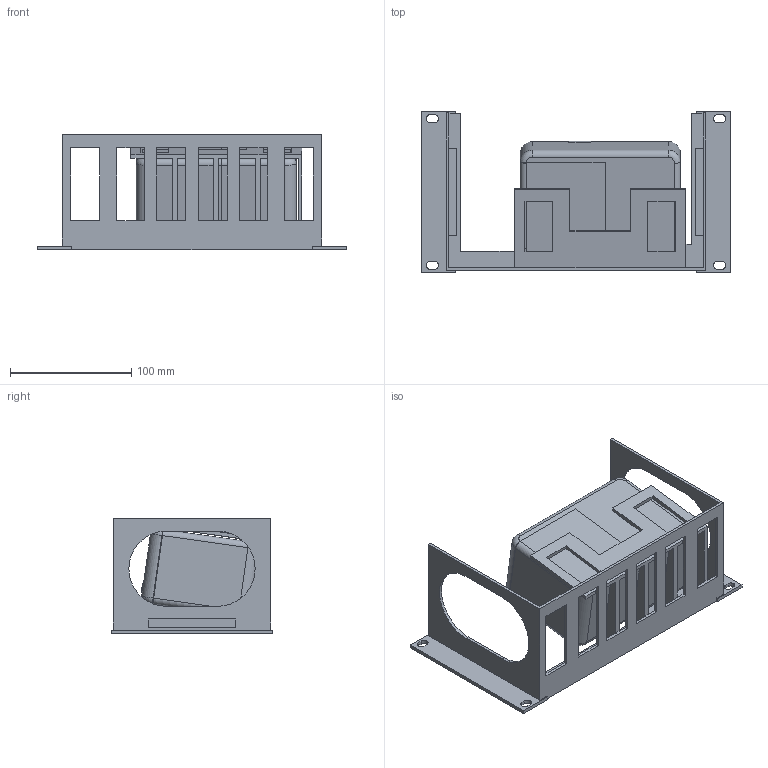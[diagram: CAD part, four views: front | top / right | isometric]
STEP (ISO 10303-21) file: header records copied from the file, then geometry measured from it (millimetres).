
FILE_DESCRIPTION(('Open CASCADE Model'),'2;1');
FILE_NAME('Open CASCADE Shape Model','2026-10-27T20:43:00',('Author'),( 'Open CASCADE'),'Open CASCADE STEP processor 7.9','Open CASCADE 7.9' ,'Unknown');
FILE_SCHEMA(('AUTOMOTIVE_DESIGN { 1 0 10303 214 1 1 1 1 }'));
Length unit declared in the file: millimetre
Products named in the file (9): e5fab248-d218-11f1-a6dc-2f421e55fa91; body; ear_a; ear_b; niimbot_b1_body; niimbot_b1_lid; niimbot_b1_slide; niimbot_b1_led; niimbot_b1_button
Assembly tree (8 placements, depth 2):
  e5fab248-d218-11f1-a6dc-2f421e55fa91
    body
    ear_a
    ear_b
    niimbot_b1_body
    niimbot_b1_lid
    niimbot_b1_slide
    niimbot_b1_led
    niimbot_b1_button
Bounding box: 254 x 132.55 x 95 mm (x, y, z)
Volume: 871994 mm3; surface area: 176213.6 mm2
Topology: 8 solids, 8 shells, 213 faces, 608 edges, 396 vertices
Faces by surface type: plane 163, cylinder 36, torus 10, cone 4
Full cylindrical faces by diameter (mm): 3.4 x4, 4 x4, 10 x1
Entity records: 15100 total; most frequent: CARTESIAN_POINT 3423, DIRECTION 1909, LINE 1281, VECTOR 1281, ORIENTED_EDGE 1216, PCURVE 1216, DEFINITIONAL_REPRESENTATION 1216, EDGE_CURVE 608
